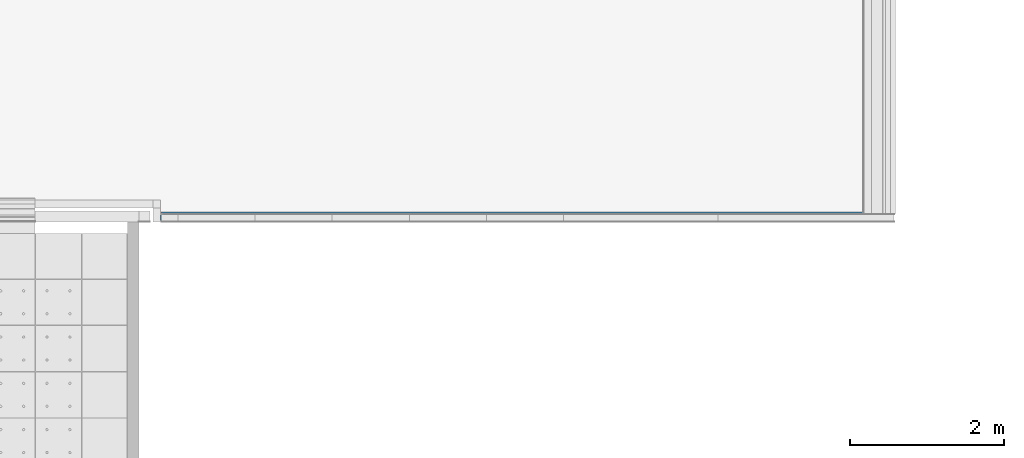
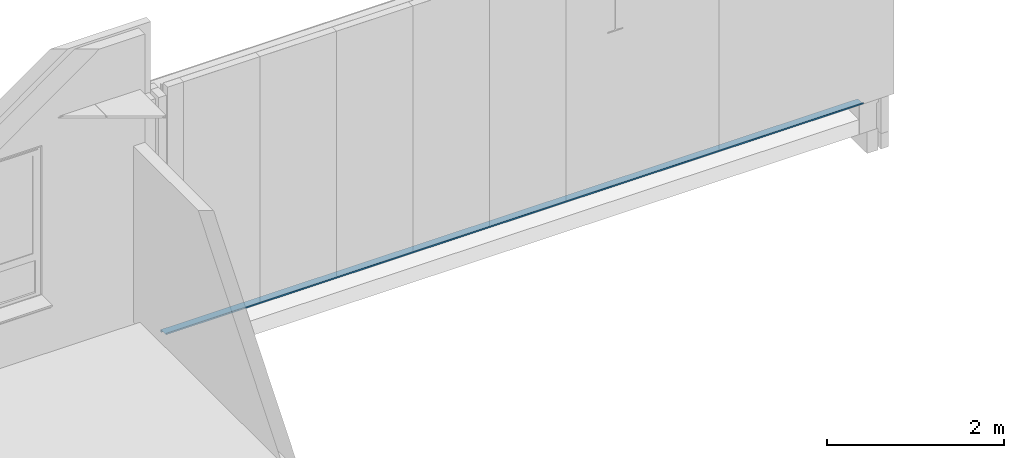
# One storey, part 34 of 321: 1 beam.
"""IFC2X3 building model written with IfcOpenShell, lengths in millimetres."""

from ifc_helpers import new_model, entity, si_unit, converted_unit, derived_unit, money_unit, direction, frame, origin_with_axes, place, context, subcontext, project, spatial, faceted_brep, material, type_object, element, save


model = new_model("IFC2X3")

# Units and contexts
model_context = context("Model", 3, precision=0.01, world=origin_with_axes(), true_north=direction((0.0, 1.0)))
plan_context = context("Plan", 3, precision=0.01, world=origin_with_axes(), true_north=direction((0.0, 1.0)))
body_context = subcontext(model_context, "Body", "Model", "MODEL_VIEW")
ifc_project = project(units=[si_unit("LENGTHUNIT", "METRE", prefix="MILLI"), si_unit("AREAUNIT", "SQUARE_METRE"), si_unit("VOLUMEUNIT", "CUBIC_METRE"), converted_unit("PLANEANGLEUNIT", "DEGREE", entity("IfcPlaneAngleMeasure", 0.0174532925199), si_unit("PLANEANGLEUNIT", "RADIAN"), dimensions=[0, 0, 0, 0, 0, 0, 0]), money_unit("EUR"), converted_unit("TIMEUNIT", "Year", entity("IfcTimeMeasure", 31556926.0), si_unit("TIMEUNIT", "SECOND"), dimensions=[0, 0, 1, 0, 0, 0, 0]), si_unit("MASSUNIT", "GRAM", prefix="KILO"), si_unit("THERMODYNAMICTEMPERATUREUNIT", "DEGREE_CELSIUS"), si_unit("LUMINOUSINTENSITYUNIT", "LUMEN"), si_unit("ENERGYUNIT", "JOULE", prefix="MEGA"), derived_unit("THERMALCONDUCTANCEUNIT", [(si_unit("POWERUNIT", "WATT"), 1), (si_unit("LENGTHUNIT", "METRE"), -1), (si_unit("THERMODYNAMICTEMPERATUREUNIT", "KELVIN"), -1)]), derived_unit("SPECIFICHEATCAPACITYUNIT", [(si_unit("ENERGYUNIT", "JOULE"), 1), (si_unit("MASSUNIT", "GRAM", prefix="KILO"), -1), (si_unit("THERMODYNAMICTEMPERATUREUNIT", "KELVIN"), -1)]), derived_unit("MASSDENSITYUNIT", [(si_unit("MASSUNIT", "GRAM", prefix="KILO"), 1), (si_unit("VOLUMEUNIT", "CUBIC_METRE"), -1)])], contexts=[model_context, plan_context])

# Site, building, storey
site_placement = place(None, origin_with_axes())
site = spatial("IfcSite", under=ifc_project, at=site_placement, Name="Fortuinstraat Woensdrecht", CompositionType="ELEMENT")
building_placement = place(site_placement, origin_with_axes())
building = spatial("IfcBuilding", under=site, at=building_placement, Name="IKC Fortuna", CompositionType="ELEMENT")
storey_placement = place(building_placement, frame((0.0, 0.0, 4000.0), z_axis=(0.0, 0.0, 1.0), x_axis=(1.0, 0.0, 0.0)))
storey = spatial("IfcBuildingStorey", under=building, at=storey_placement, Name="01 eerste verdieping", CompositionType="ELEMENT", Elevation=4000.0)

# Beam
ifc_material = material(Name="Metaal - Aluminium")
beam_type = type_object("IfcBeamType", Name="41 Waterslag SW - dakopstand 130 x 55", PredefinedType="BEAM")
beam_placement = place(storey_placement, frame((44227.43959, 35496.2966283, -395.0), z_axis=(0.0, 0.0, 1.0), x_axis=(0.0, 1.0, 0.0)))
element("IfcBeam", 1, at=beam_placement, inside=storey, type_object=beam_type, material=ifc_material, Name="28_Balk_UNP203", ObjectType="BEAM", context=body_context, shape_type="Brep", body=[
    faceted_brep([(128.999832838, 9114.01253294, -29.1253337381), (-0.00375728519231, 9114.01253294, -21.1201540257), (0.0, 9114.01253294, -0.00320269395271), (0.999999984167, 9114.01253294, -0.00338062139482), (0.996409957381, 9114.01253294, -20.1802948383), (130.0, 9114.01253294, -28.1854745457), (129.995207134, 9114.01253294, -55.1226690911), (109.995211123, 9114.01253294, -55.115551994), (109.995389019, 9114.01253294, -54.1157299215), (128.995385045, 9114.01253294, -54.1226690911), (-0.00375728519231, 3344.01253288, -21.1201540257), (-0.00375728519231, 9048.01253288, -21.1201540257), (128.999832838, 0.0, -29.1253337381), (-0.00375728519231, 0.0, -21.1201540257), (-2.18847162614e-08, 9048.01253288, -5.00000000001), (-2.18847162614e-08, 3344.01253288, -5.00000000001), (0.0, 0.0, -0.00320269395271), (0.999999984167, 0.0, -0.00338062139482), (0.996409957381, 0.0, -20.1802948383), (130.0, 0.0, -28.1854745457), (129.995207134, 0.0, -55.1226690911), (109.995211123, 0.0, -55.115551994), (109.995389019, 0.0, -54.1157299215), (128.995385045, 0.0, -54.1226690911)], [[[0, 1, 2, 3, 4, 5, 6, 7, 8, 9]], [[10, 11, 1, 0, 12, 13]], [[2, 1, 11, 14, 15, 10, 13, 16]], [[3, 2, 16, 17]], [[18, 4, 3, 17]], [[19, 5, 4, 18]], [[20, 6, 5, 19]], [[21, 7, 6, 20]], [[22, 8, 7, 21]], [[23, 9, 8, 22]], [[12, 0, 9, 23]], [[15, 14, 11, 10]], [[17, 16, 13, 12, 23, 22, 21, 20, 19, 18]]]),
])

save(model, "model.ifc")
